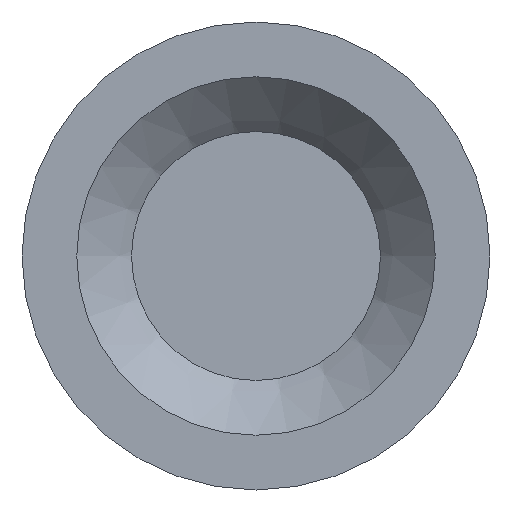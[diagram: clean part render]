
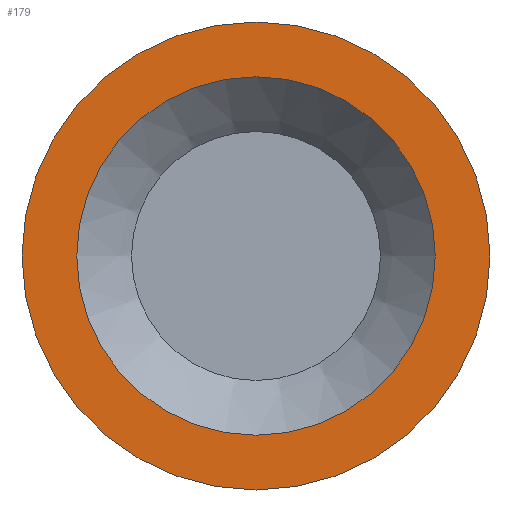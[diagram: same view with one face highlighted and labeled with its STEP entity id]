
A CAD part, left-side view. The second image highlights one B-rep face of the part: STEP entity #179.
In plain terms, the highlighted planar face has unit normal (-1, 0, 0).
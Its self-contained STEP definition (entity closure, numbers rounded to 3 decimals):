
#15=PLANE($,#205);
#28=FACE_BOUND($,#65,.T.);
#44=FACE_OUTER_BOUND($,#64,.T.);
#64=EDGE_LOOP($,(#144));
#65=EDGE_LOOP($,(#145));
#91=CIRCLE($,#204,0.914);
#92=CIRCLE($,#206,1.194);
#107=VERTEX_POINT($,#311);
#108=VERTEX_POINT($,#314);
#123=EDGE_CURVE($,#107,#107,#91,.T.);
#124=EDGE_CURVE($,#108,#108,#92,.T.);
#144=ORIENTED_EDGE($,*,*,#124,.F.);
#145=ORIENTED_EDGE($,*,*,#123,.T.);
#179=ADVANCED_FACE($,(#44,#28),#15,.T.);
#204=AXIS2_PLACEMENT_3D($,#312,#249,#250);
#205=AXIS2_PLACEMENT_3D($,#313,#251,#252);
#206=AXIS2_PLACEMENT_3D($,#315,#253,#254);
#249=DIRECTION('center_axis',(1.,0.,0.));
#250=DIRECTION('ref_axis',(0.,1.,0.));
#251=DIRECTION('center_axis',(-1.,0.,0.));
#252=DIRECTION('ref_axis',(0.,0.,1.));
#253=DIRECTION('center_axis',(1.,0.,0.));
#254=DIRECTION('ref_axis',(0.,1.,0.));
#311=CARTESIAN_POINT('',(3.375,0.914,0.));
#312=CARTESIAN_POINT('Origin',(3.375,0.,0.));
#313=CARTESIAN_POINT('Origin',(3.375,1.054,0.));
#314=CARTESIAN_POINT('',(3.375,1.194,0.));
#315=CARTESIAN_POINT('Origin',(3.375,0.,0.));
